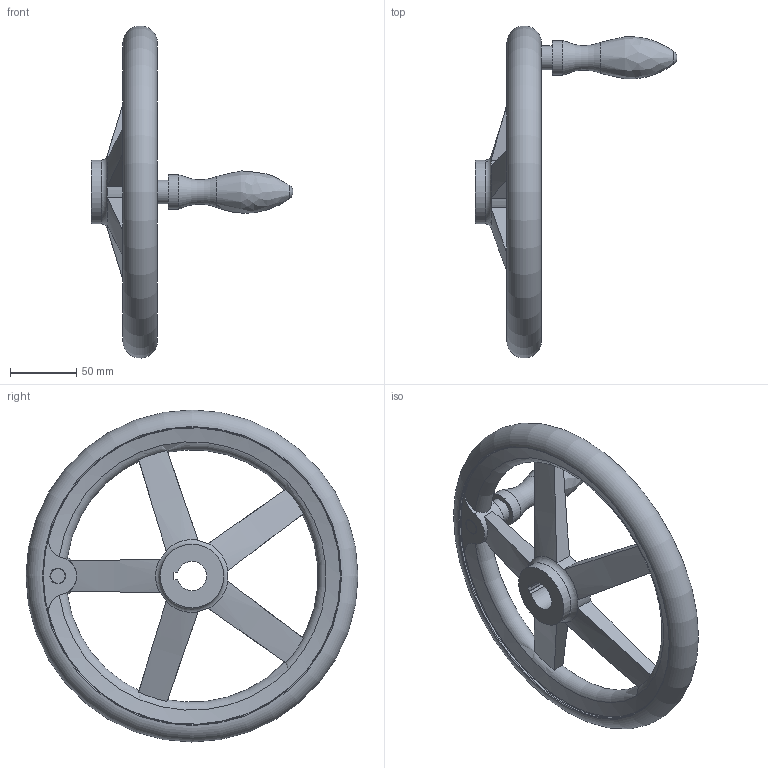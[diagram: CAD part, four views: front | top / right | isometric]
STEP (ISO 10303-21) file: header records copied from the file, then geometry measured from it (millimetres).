
FILE_DESCRIPTION( ( 'STEP AP203' ), '1' );
FILE_NAME( 'C:/Temp/Ganter_Step_05_03_2020/data/1_3/din_950/din_950_k/din_950_k_d/Handwheel DIN 950-GG-250-K22-D.stp', '2020-03-05T10:30:59', ( 'License CC BY-ND 4.0' ), ( 'CADENAS' ), ' ', 'PARTsolutions', ' ' );
FILE_SCHEMA( ( 'CONFIG_CONTROL_DESIGN' ) );
Length unit declared in the file: millimetre
Products named in the file (1): _Handwheel DIN 950-GG-250-K22-D
Bounding box: 152 x 249.92 x 249.92 mm (x, y, z)
Volume: 565103.1 mm3; surface area: 103017.7 mm2
Topology: 1 solids, 1 shells, 63 faces, 180 edges, 116 vertices
Faces by surface type: cylinder 19, plane 19, torus 13, cone 10, bspline 1, sphere 1
Full cylindrical faces by diameter (mm): 18 x1, 26 x1, 48 x2, 224 x2
Entity records: 2489 total; most frequent: CARTESIAN_POINT 958, ORIENTED_EDGE 310, DIRECTION 284, EDGE_CURVE 155, AXIS2_PLACEMENT_3D 128, VERTEX_POINT 112, EDGE_LOOP 91, FACE_OUTER_BOUND 78
